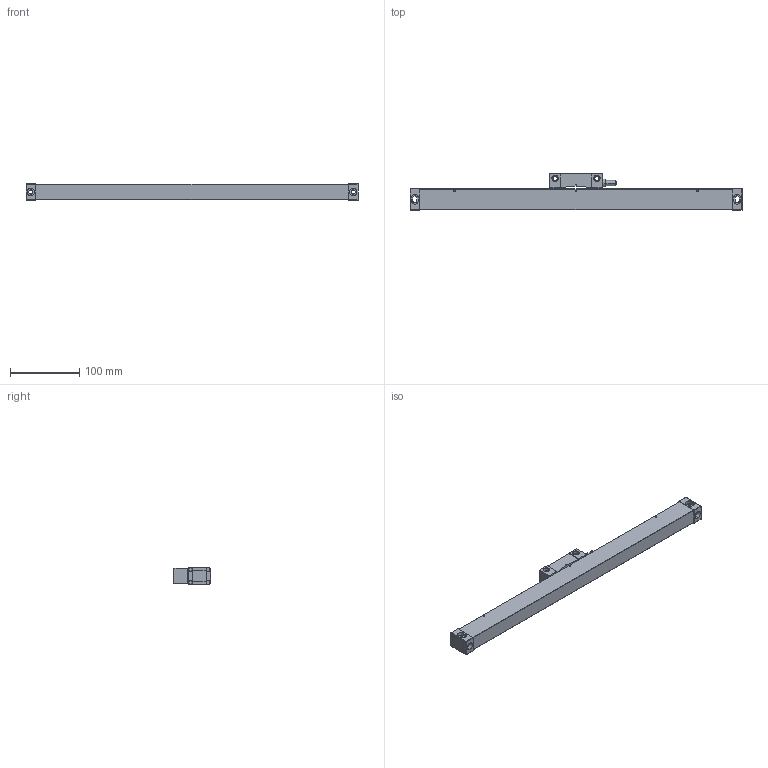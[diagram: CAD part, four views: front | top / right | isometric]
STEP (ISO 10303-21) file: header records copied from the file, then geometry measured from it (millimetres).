
FILE_DESCRIPTION (( 'STEP AP214' ), '1' );
FILE_NAME ('JCXE350-W5.step', '2023-05-18T05:07:02', ( 'Windows 蚚誧' ), ( '' ), 'SwSTEP 2.0', 'SolidWorks 2016', '' );
FILE_SCHEMA (( 'AUTOMOTIVE_DESIGN' ));
Length unit declared in the file: millimetre
Products named in the file (1): JCXE350-W5
Bounding box: 478 x 52.5 x 23.5 mm (x, y, z)
Volume: 333786.6 mm3; surface area: 64435.4 mm2
Topology: 2 solids, 2 shells, 307 faces, 756 edges, 466 vertices
Faces by surface type: cylinder 138, plane 134, torus 22, sphere 11, cone 2
Entity records: 9260 total; most frequent: CARTESIAN_POINT 1860, DIRECTION 1588, ORIENTED_EDGE 1486, EDGE_CURVE 743, AXIS2_PLACEMENT_3D 596, VERTEX_POINT 464, LINE 396, VECTOR 396
